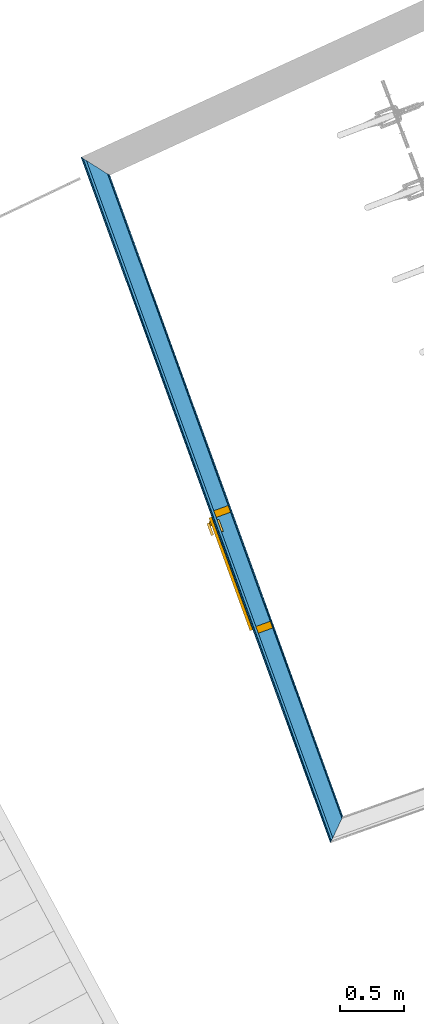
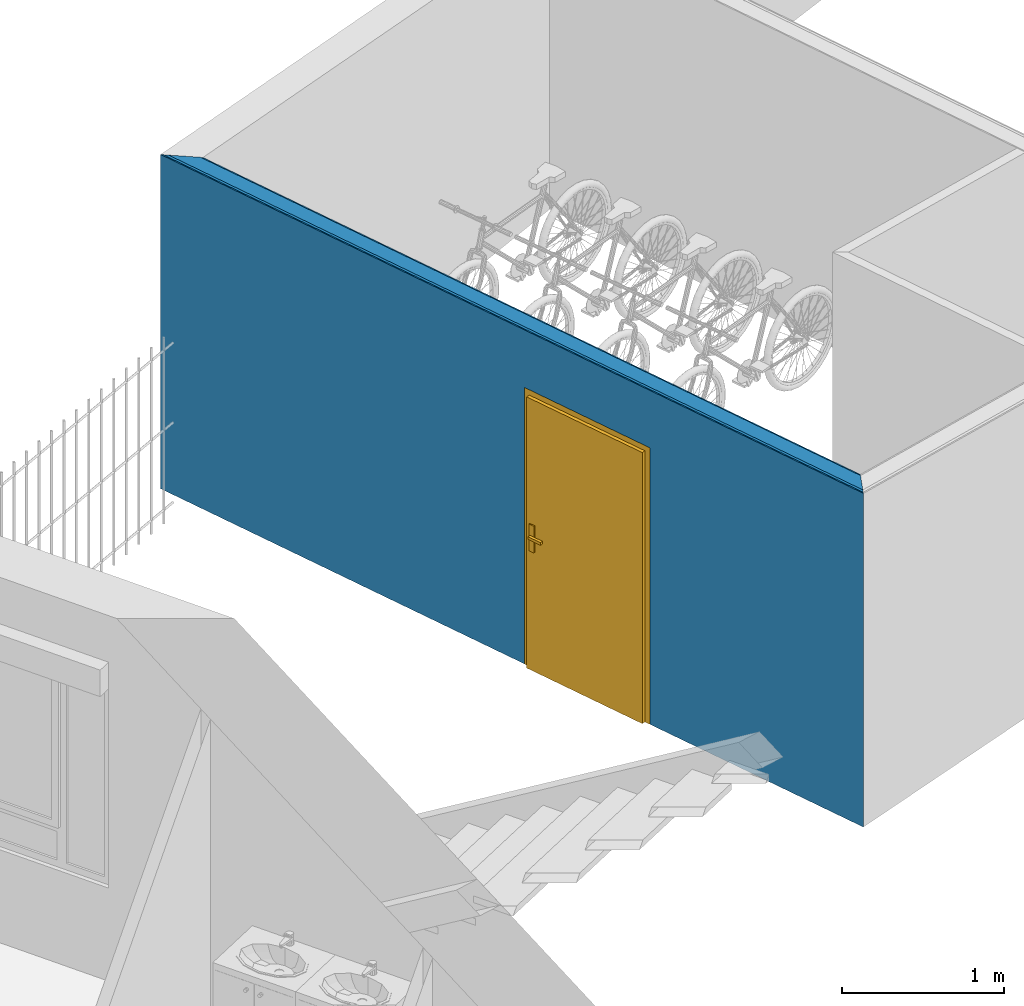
# One storey, part 118 of 195: 4 building element parts, 1 door, 1 opening, 1 element without a shape of its own.
"""IFC2X3 building model written with IfcOpenShell, lengths in metres."""

from ifc_helpers import new_model, entity, si_unit, converted_unit, derived_unit, money_unit, direction, frame, origin_with_axes, origin_2d_with_axis, place, context, subcontext, project, spatial, polyline, rectangle, outline, extrude, boolean, faceted_brep, source, transform, mapped, material, type_object, element, fill, aggregate, save


model = new_model("IFC2X3")

# Units and contexts
model_context = context("Model", 3, precision=1e-05, world=origin_with_axes(), true_north=direction((0.0, 1.0)))
body_context = subcontext(model_context, "Body", "Model", "MODEL_VIEW")
ifc_project = project(units=[si_unit("LENGTHUNIT", "METRE"), si_unit("AREAUNIT", "SQUARE_METRE"), si_unit("VOLUMEUNIT", "CUBIC_METRE"), converted_unit("PLANEANGLEUNIT", "DEGREE", entity("IfcPlaneAngleMeasure", 0.0174532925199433), si_unit("PLANEANGLEUNIT", "RADIAN"), dimensions=[0, 0, 0, 0, 0, 0, 0]), money_unit("CHF"), converted_unit("TIMEUNIT", "Year", entity("IfcTimeMeasure", 31557600.0), si_unit("TIMEUNIT", "SECOND"), dimensions=[0, 0, 1, 0, 0, 0, 0]), si_unit("MASSUNIT", "GRAM", prefix="KILO"), si_unit("THERMODYNAMICTEMPERATUREUNIT", "DEGREE_CELSIUS"), si_unit("LUMINOUSINTENSITYUNIT", "LUMEN"), si_unit("ENERGYUNIT", "JOULE", prefix="MEGA"), derived_unit("THERMALCONDUCTANCEUNIT", [(si_unit("POWERUNIT", "WATT"), 1), (si_unit("LENGTHUNIT", "METRE"), -1), (si_unit("THERMODYNAMICTEMPERATUREUNIT", "KELVIN"), -1)]), derived_unit("SPECIFICHEATCAPACITYUNIT", [(si_unit("ENERGYUNIT", "JOULE"), 1), (si_unit("MASSUNIT", "GRAM", prefix="KILO"), -1), (si_unit("THERMODYNAMICTEMPERATUREUNIT", "KELVIN"), -1)]), derived_unit("MASSDENSITYUNIT", [(si_unit("MASSUNIT", "GRAM", prefix="KILO"), 1), (si_unit("VOLUMEUNIT", "CUBIC_METRE"), -1)])], contexts=[model_context])

# Site, building, storey
site_placement = place(None, origin_with_axes())
site = spatial("IfcSite", under=ifc_project, at=site_placement, Name="Site", CompositionType="ELEMENT")
building_placement = place(site_placement, origin_with_axes())
building = spatial("IfcBuilding", under=site, at=building_placement, Name="Bâtiment", CompositionType="ELEMENT")
storey_placement = place(building_placement, origin_with_axes())
storey = spatial("IfcBuildingStorey", under=building, at=storey_placement, Name="rdc", CompositionType="ELEMENT", Elevation=0.0)

# Door
door_style = type_object("IfcDoorStyle", Name="Porte_1v", ConstructionType="NOTDEFINED", OperationType="NOTDEFINED", ParameterTakesPrecedence=False, Sizeable=False)
shared_shape = source(origin_with_axes(), body_context, "Body", "Brep", [
    faceted_brep([(-0.505, 0.0, 0.0), (-0.505, 0.0, 2.08), (0.505, 0.0, 2.08), (0.505, 0.0, 0.0), (0.465, 0.0, 0.0), (0.465, 0.0, 2.04), (-0.465, 0.0, 2.04), (-0.465, 0.0, 0.0), (-0.505, -0.16, 0.0), (-0.505, -0.16, 2.08), (0.505, -0.16, 2.08), (0.505, -0.16, 0.0), (0.45, -0.16, 0.0), (0.45, -0.015, 0.0), (0.465, -0.015, 0.0), (0.465, -0.015, 2.04), (-0.465, -0.015, 2.04), (-0.465, -0.015, 0.0), (-0.45, -0.015, 0.0), (-0.45, -0.16, 0.0), (-0.45, -0.16, 2.025), (0.45, -0.16, 2.025), (0.45, -0.015, 2.025), (-0.45, -0.015, 2.025)], [[[0, 1, 2, 3, 4, 5, 6, 7]], [[8, 9, 1, 0]], [[9, 10, 2, 1]], [[10, 11, 3, 2]], [[3, 11, 12, 13, 14, 4]], [[5, 4, 14, 15]], [[6, 5, 15, 16]], [[7, 6, 16, 17]], [[0, 7, 17, 18, 19, 8]], [[19, 20, 21, 12, 11, 10, 9, 8]], [[22, 13, 12, 21]], [[17, 16, 15, 14, 13, 22, 23, 18]], [[18, 23, 20, 19]], [[23, 22, 21, 20]]]),
    faceted_brep([(0.4, -0.015, 0.9), (0.4, -0.015, 1.1), (0.44, -0.015, 1.1), (0.44, -0.015, 0.9), (0.4, -0.025, 0.9), (0.4, -0.025, 1.1), (0.44, -0.025, 1.1), (0.44, -0.025, 0.9)], [[[0, 1, 2, 3]], [[0, 4, 5, 1]], [[1, 5, 6, 2]], [[2, 6, 7, 3]], [[3, 7, 4, 0]], [[7, 6, 5, 4]]]),
    faceted_brep([(0.33, -0.025, 1.0), (0.33, -0.025, 1.02), (0.43, -0.025, 1.02), (0.43, -0.025, 1.0), (0.33, -0.045, 1.0), (0.33, -0.045, 1.02), (0.43, -0.045, 1.02), (0.43, -0.045, 1.0)], [[[0, 1, 2, 3]], [[0, 4, 5, 1]], [[1, 5, 6, 2]], [[2, 6, 7, 3]], [[3, 7, 4, 0]], [[7, 6, 5, 4]]]),
    faceted_brep([(0.4, 0.035, 0.9), (0.4, 0.035, 1.1), (0.44, 0.035, 1.1), (0.44, 0.035, 0.9), (0.4, 0.025, 0.9), (0.4, 0.025, 1.1), (0.44, 0.025, 1.1), (0.44, 0.025, 0.9)], [[[0, 1, 2, 3]], [[0, 4, 5, 1]], [[1, 5, 6, 2]], [[2, 6, 7, 3]], [[3, 7, 4, 0]], [[7, 6, 5, 4]]]),
    faceted_brep([(0.33, 0.05500000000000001, 1.0), (0.33, 0.05500000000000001, 1.02), (0.43, 0.05500000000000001, 1.02), (0.43, 0.05500000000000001, 1.0), (0.33, 0.035, 1.0), (0.33, 0.035, 1.02), (0.43, 0.035, 1.02), (0.43, 0.035, 1.0)], [[[0, 1, 2, 3]], [[0, 4, 5, 1]], [[1, 5, 6, 2]], [[2, 6, 7, 3]], [[3, 7, 4, 0]], [[7, 6, 5, 4]]]),
    faceted_brep([(0.465, 0.025, 0.0), (0.465, -0.015, 0.0), (-0.465, -0.015, 0.0), (-0.465, 0.025, 0.0), (0.465, 0.025, 2.04), (0.465, -0.015, 2.04), (-0.465, -0.015, 2.04), (-0.465, 0.025, 2.04)], [[[0, 1, 2, 3]], [[4, 5, 1, 0]], [[1, 5, 6, 2]], [[3, 2, 6, 7]], [[0, 3, 7, 4]], [[7, 6, 5, 4]]]),
])
wall_placement = place(storey_placement, frame((9565.115450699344, -1022.062196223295, 57.7), z_axis=(0.0, 0.0, 1.0), x_axis=(0.3417568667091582, -0.9397884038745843, 0.0)))
opening_placement = place(wall_placement, frame((3.432817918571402, 0.0, 0.0), z_axis=(0.0, 0.0, 1.0), x_axis=(1.0, 0.0, 0.0)))
door_placement = place(opening_placement, frame((0.4649999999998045, 0.0, 0.0), z_axis=(0.0, 0.0, 1.0), x_axis=(-1.0, 0.0, 0.0)))
door = element("IfcDoor", 1, at=door_placement, inside=storey, type_object=door_style, Name="Por-300", OverallHeight=2.04, OverallWidth=0.93, context=body_context, shape_type="MappedRepresentation", body=[
    mapped(shared_shape, transform((0.4650000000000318, 0.0, 0.0))),
])

# Wall, opening
wall_type = type_object("IfcWallType", Name="1/Ossatur bois 160   non isol 160", PredefinedType="NOTDEFINED")
wall = element("IfcWall", 2, at=wall_placement, inside=storey, type_object=wall_type, Name="Mur-108")
opening = element("IfcOpeningElement", 3, at=opening_placement, cuts=wall, Name="Por-300", context=body_context, shape_type="SweptSolid", body=[
    extrude(rectangle(XDim=1.01000001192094, YDim=2.079999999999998, at=origin_2d_with_axis()), frame((5.960600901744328e-09, 0.1599999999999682, 1.039999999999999), z_axis=(0.0, 1.0, 0.0), x_axis=(1.0, 0.0, 0.0)), (0.0, 0.0, -1.0), 0.32),
])

fill(opening, door)

# Building element part
ifc_material_1 = material(Name="Sans Trame 296962763")
building_element_part_1_placement = place(wall_placement, origin_with_axes())
building_element_part_1 = element("IfcBuildingElementPart", 4, at=building_element_part_1_placement, material=ifc_material_1, Name="Sans Trame 296962763", context=body_context, shape_type="CSG", body=[
    boolean("DIFFERENCE", boolean("DIFFERENCE", boolean("DIFFERENCE", boolean("DIFFERENCE", extrude(outline(polyline([(-0.01308100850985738, 0.1499999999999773), (5.657522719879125, 0.1499999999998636), (5.657522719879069, 0.1599999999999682), (-0.01308100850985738, 0.1600000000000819), (-0.01308100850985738, 0.1499999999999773)])), origin_with_axes(), (0.0, 0.0, 1.0), 2.75), faceted_brep([(0.2076530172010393, 0.1599999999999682, 2.500056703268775), (0.2076530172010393, 0.1599999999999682, 0.0), (-0.01308100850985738, 0.1600000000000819, 0.0), (-0.01308100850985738, 0.1600000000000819, 2.75), (5.657522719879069, 0.1599999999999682, 2.75), (5.657522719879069, 0.1599999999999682, 0.0), (5.497518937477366, 0.1599999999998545, 0.0), (5.497518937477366, 0.1599999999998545, 2.49687450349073), (0.1946747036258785, 0.1499999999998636, 2.500939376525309), (0.1946747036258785, 0.1499999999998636, 0.0), (-0.01308100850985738, 0.1499999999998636, 0.0), (-0.01308100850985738, 0.1499999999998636, 2.75), (5.657522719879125, 0.1499999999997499, 2.75), (5.657522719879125, 0.1499999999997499, 0.0), (5.507450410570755, 0.150000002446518, 0.0), (5.507450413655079, 0.1499999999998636, 2.497743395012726)], [[[0, 1, 2, 3, 4, 5, 6, 7]], [[1, 0, 8, 9]], [[1, 9, 10, 2]], [[3, 2, 10, 11]], [[3, 11, 12, 4]], [[12, 13, 5, 4]], [[14, 6, 5, 13]], [[7, 6, 14, 15]], [[0, 7, 15, 8]], [[15, 14, 13, 12, 11, 10, 9, 8]]])), faceted_brep([(0.1946747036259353, 0.1499999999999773, 2.500939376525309), (0.1946747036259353, 0.1499999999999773, 0.0), (-0.01308100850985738, 0.1499999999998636, 0.0), (-0.01308100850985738, 0.1499999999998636, 2.75), (5.657522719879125, 0.1499999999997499, 2.75), (5.657522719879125, 0.1499999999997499, 0.0), (5.507450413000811, 0.1499999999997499, 0.0), (5.507450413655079, 0.1499999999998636, 2.497743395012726), (0.03893494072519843, 0.02999999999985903, 2.511531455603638), (0.03893494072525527, 0.02999999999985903, 0.0), (-0.01308100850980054, 0.02999999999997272, 0.0), (-0.01308100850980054, 0.02999999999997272, 2.75), (5.657522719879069, 0.02999999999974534, 2.75), (5.657522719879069, 0.02999999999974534, 0.0), (5.626628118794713, 0.03000000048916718, 0.0), (5.626628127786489, 0.02999999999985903, 2.508170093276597)], [[[0, 1, 2, 3, 4, 5, 6, 7]], [[1, 0, 8, 9]], [[1, 9, 10, 2]], [[3, 2, 10, 11]], [[3, 11, 12, 4]], [[12, 13, 5, 4]], [[14, 6, 5, 13]], [[7, 6, 14, 15]], [[0, 7, 15, 8]], [[15, 14, 13, 12, 11, 10, 9, 8]]])), faceted_brep([(0.03893494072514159, 0.02999999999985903, 2.511531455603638), (0.03893494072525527, 0.02999999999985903, 0.0), (-0.01308100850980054, 0.02999999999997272, 0.0), (-0.01308100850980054, 0.02999999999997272, 2.75), (5.657522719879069, 0.02999999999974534, 2.75), (5.657522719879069, 0.02999999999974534, 0.0), (5.626628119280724, 0.02999999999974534, 0.0), (5.626628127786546, 0.02999999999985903, 2.508170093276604), (0.01297831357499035, 0.009999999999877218, 2.513296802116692), (0.0129783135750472, 0.009999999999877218, 0.0), (-0.01308100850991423, 0.009999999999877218, 0.0), (-0.01308100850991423, 0.009999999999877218, 2.75), (5.657522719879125, 0.009999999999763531, 2.75), (5.657522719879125, 0.009999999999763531, 0.0), (5.646491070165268, 0.01000000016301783, 0.0), (5.6464910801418, 0.009999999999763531, 2.509907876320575)], [[[0, 1, 2, 3, 4, 5, 6, 7]], [[1, 0, 8, 9]], [[1, 9, 10, 2]], [[3, 2, 10, 11]], [[3, 11, 12, 4]], [[12, 13, 5, 4]], [[14, 6, 5, 13]], [[7, 6, 14, 15]], [[0, 7, 15, 8]], [[15, 14, 13, 12, 11, 10, 9, 8]]])), faceted_brep([(0.01297831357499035, 0.009999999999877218, 2.513296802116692), (0.0129783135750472, 0.009999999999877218, 0.0), (-0.01308100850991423, 0.009999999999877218, 0.0), (-0.01308100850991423, 0.009999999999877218, 2.75), (5.657522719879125, 0.009999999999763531, 2.75), (5.657522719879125, 0.009999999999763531, 0.0), (5.646491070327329, 0.009999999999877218, 0.0), (5.6464910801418, 0.009999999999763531, 2.509907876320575), (0.0, 0.0, 2.514179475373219), (0.0, 0.0, 0.0), (-0.01308100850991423, 0.0, 0.0), (-0.01308100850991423, 0.0, 2.75), (5.657522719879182, 0.0, 2.75), (5.657522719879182, 0.0, 0.0), (5.656422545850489, 0.0, 0.0), (5.656422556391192, 0.0, 2.510776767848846)], [[[0, 1, 2, 3, 4, 5, 6, 7]], [[1, 0, 8, 9]], [[1, 9, 10, 2]], [[3, 2, 10, 11]], [[3, 11, 12, 4]], [[12, 13, 5, 4]], [[14, 6, 5, 13]], [[7, 6, 14, 15]], [[0, 7, 15, 8]], [[15, 14, 13, 12, 11, 10, 9, 8]]])),
])

ifc_material_2 = material(Name="Lame d'air 275581439")
building_element_part_2_placement = place(wall_placement, origin_with_axes())
building_element_part_2 = element("IfcBuildingElementPart", 5, at=building_element_part_2_placement, material=ifc_material_2, Name="Lame d'air 275581439", context=body_context, shape_type="CSG", body=[
    boolean("DIFFERENCE", boolean("DIFFERENCE", boolean("DIFFERENCE", boolean("DIFFERENCE", extrude(outline(polyline([(-0.01308100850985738, 0.02999999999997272), (5.657522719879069, 0.02999999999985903), (5.657522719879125, 0.1499999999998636), (-0.01308100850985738, 0.1499999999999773), (-0.01308100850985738, 0.02999999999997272)])), origin_with_axes(), (0.0, 0.0, 1.0), 2.75), faceted_brep([(0.2076530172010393, 0.1599999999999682, 2.500056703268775), (0.2076530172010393, 0.1599999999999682, 0.0), (-0.01308100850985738, 0.1600000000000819, 0.0), (-0.01308100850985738, 0.1600000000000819, 2.75), (5.657522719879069, 0.1599999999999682, 2.75), (5.657522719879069, 0.1599999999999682, 0.0), (5.497518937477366, 0.1599999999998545, 0.0), (5.497518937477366, 0.1599999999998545, 2.49687450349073), (0.1946747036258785, 0.1499999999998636, 2.500939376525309), (0.1946747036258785, 0.1499999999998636, 0.0), (-0.01308100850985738, 0.1499999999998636, 0.0), (-0.01308100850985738, 0.1499999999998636, 2.75), (5.657522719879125, 0.1499999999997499, 2.75), (5.657522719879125, 0.1499999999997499, 0.0), (5.507450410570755, 0.150000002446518, 0.0), (5.507450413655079, 0.1499999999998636, 2.497743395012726)], [[[0, 1, 2, 3, 4, 5, 6, 7]], [[1, 0, 8, 9]], [[1, 9, 10, 2]], [[3, 2, 10, 11]], [[3, 11, 12, 4]], [[12, 13, 5, 4]], [[14, 6, 5, 13]], [[7, 6, 14, 15]], [[0, 7, 15, 8]], [[15, 14, 13, 12, 11, 10, 9, 8]]])), faceted_brep([(0.1946747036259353, 0.1499999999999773, 2.500939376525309), (0.1946747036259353, 0.1499999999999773, 0.0), (-0.01308100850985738, 0.1499999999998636, 0.0), (-0.01308100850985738, 0.1499999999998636, 2.75), (5.657522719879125, 0.1499999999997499, 2.75), (5.657522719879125, 0.1499999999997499, 0.0), (5.507450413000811, 0.1499999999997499, 0.0), (5.507450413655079, 0.1499999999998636, 2.497743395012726), (0.03893494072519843, 0.02999999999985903, 2.511531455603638), (0.03893494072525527, 0.02999999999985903, 0.0), (-0.01308100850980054, 0.02999999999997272, 0.0), (-0.01308100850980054, 0.02999999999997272, 2.75), (5.657522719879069, 0.02999999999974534, 2.75), (5.657522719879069, 0.02999999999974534, 0.0), (5.626628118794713, 0.03000000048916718, 0.0), (5.626628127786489, 0.02999999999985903, 2.508170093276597)], [[[0, 1, 2, 3, 4, 5, 6, 7]], [[1, 0, 8, 9]], [[1, 9, 10, 2]], [[3, 2, 10, 11]], [[3, 11, 12, 4]], [[12, 13, 5, 4]], [[14, 6, 5, 13]], [[7, 6, 14, 15]], [[0, 7, 15, 8]], [[15, 14, 13, 12, 11, 10, 9, 8]]])), faceted_brep([(0.03893494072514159, 0.02999999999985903, 2.511531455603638), (0.03893494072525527, 0.02999999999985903, 0.0), (-0.01308100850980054, 0.02999999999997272, 0.0), (-0.01308100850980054, 0.02999999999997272, 2.75), (5.657522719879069, 0.02999999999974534, 2.75), (5.657522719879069, 0.02999999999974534, 0.0), (5.626628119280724, 0.02999999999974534, 0.0), (5.626628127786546, 0.02999999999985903, 2.508170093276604), (0.01297831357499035, 0.009999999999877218, 2.513296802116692), (0.0129783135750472, 0.009999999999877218, 0.0), (-0.01308100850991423, 0.009999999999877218, 0.0), (-0.01308100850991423, 0.009999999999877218, 2.75), (5.657522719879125, 0.009999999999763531, 2.75), (5.657522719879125, 0.009999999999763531, 0.0), (5.646491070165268, 0.01000000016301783, 0.0), (5.6464910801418, 0.009999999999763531, 2.509907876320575)], [[[0, 1, 2, 3, 4, 5, 6, 7]], [[1, 0, 8, 9]], [[1, 9, 10, 2]], [[3, 2, 10, 11]], [[3, 11, 12, 4]], [[12, 13, 5, 4]], [[14, 6, 5, 13]], [[7, 6, 14, 15]], [[0, 7, 15, 8]], [[15, 14, 13, 12, 11, 10, 9, 8]]])), faceted_brep([(0.01297831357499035, 0.009999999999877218, 2.513296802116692), (0.0129783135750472, 0.009999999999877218, 0.0), (-0.01308100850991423, 0.009999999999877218, 0.0), (-0.01308100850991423, 0.009999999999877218, 2.75), (5.657522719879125, 0.009999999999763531, 2.75), (5.657522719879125, 0.009999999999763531, 0.0), (5.646491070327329, 0.009999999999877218, 0.0), (5.6464910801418, 0.009999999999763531, 2.509907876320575), (0.0, 0.0, 2.514179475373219), (0.0, 0.0, 0.0), (-0.01308100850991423, 0.0, 0.0), (-0.01308100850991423, 0.0, 2.75), (5.657522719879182, 0.0, 2.75), (5.657522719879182, 0.0, 0.0), (5.656422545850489, 0.0, 0.0), (5.656422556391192, 0.0, 2.510776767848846)], [[[0, 1, 2, 3, 4, 5, 6, 7]], [[1, 0, 8, 9]], [[1, 9, 10, 2]], [[3, 2, 10, 11]], [[3, 11, 12, 4]], [[12, 13, 5, 4]], [[14, 6, 5, 13]], [[7, 6, 14, 15]], [[0, 7, 15, 8]], [[15, 14, 13, 12, 11, 10, 9, 8]]])),
])

ifc_material_3 = material(Name="Lame d'air 323202302")
building_element_part_3_placement = place(wall_placement, origin_with_axes())
building_element_part_3 = element("IfcBuildingElementPart", 6, at=building_element_part_3_placement, material=ifc_material_3, Name="Lame d'air 323202302", context=body_context, shape_type="CSG", body=[
    boolean("DIFFERENCE", boolean("DIFFERENCE", boolean("DIFFERENCE", boolean("DIFFERENCE", extrude(outline(polyline([(-0.01308100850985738, 0.009999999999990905), (5.657522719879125, 0.009999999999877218), (5.657522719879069, 0.02999999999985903), (-0.01308100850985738, 0.02999999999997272), (-0.01308100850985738, 0.009999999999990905)])), origin_with_axes(), (0.0, 0.0, 1.0), 2.75), faceted_brep([(0.2076530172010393, 0.1599999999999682, 2.500056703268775), (0.2076530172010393, 0.1599999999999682, 0.0), (-0.01308100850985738, 0.1600000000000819, 0.0), (-0.01308100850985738, 0.1600000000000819, 2.75), (5.657522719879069, 0.1599999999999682, 2.75), (5.657522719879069, 0.1599999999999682, 0.0), (5.497518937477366, 0.1599999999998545, 0.0), (5.497518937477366, 0.1599999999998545, 2.49687450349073), (0.1946747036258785, 0.1499999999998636, 2.500939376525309), (0.1946747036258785, 0.1499999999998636, 0.0), (-0.01308100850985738, 0.1499999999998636, 0.0), (-0.01308100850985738, 0.1499999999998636, 2.75), (5.657522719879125, 0.1499999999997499, 2.75), (5.657522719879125, 0.1499999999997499, 0.0), (5.507450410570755, 0.150000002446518, 0.0), (5.507450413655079, 0.1499999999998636, 2.497743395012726)], [[[0, 1, 2, 3, 4, 5, 6, 7]], [[1, 0, 8, 9]], [[1, 9, 10, 2]], [[3, 2, 10, 11]], [[3, 11, 12, 4]], [[12, 13, 5, 4]], [[14, 6, 5, 13]], [[7, 6, 14, 15]], [[0, 7, 15, 8]], [[15, 14, 13, 12, 11, 10, 9, 8]]])), faceted_brep([(0.1946747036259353, 0.1499999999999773, 2.500939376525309), (0.1946747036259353, 0.1499999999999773, 0.0), (-0.01308100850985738, 0.1499999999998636, 0.0), (-0.01308100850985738, 0.1499999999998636, 2.75), (5.657522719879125, 0.1499999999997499, 2.75), (5.657522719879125, 0.1499999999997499, 0.0), (5.507450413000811, 0.1499999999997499, 0.0), (5.507450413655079, 0.1499999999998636, 2.497743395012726), (0.03893494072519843, 0.02999999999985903, 2.511531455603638), (0.03893494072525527, 0.02999999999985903, 0.0), (-0.01308100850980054, 0.02999999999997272, 0.0), (-0.01308100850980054, 0.02999999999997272, 2.75), (5.657522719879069, 0.02999999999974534, 2.75), (5.657522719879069, 0.02999999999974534, 0.0), (5.626628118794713, 0.03000000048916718, 0.0), (5.626628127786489, 0.02999999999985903, 2.508170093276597)], [[[0, 1, 2, 3, 4, 5, 6, 7]], [[1, 0, 8, 9]], [[1, 9, 10, 2]], [[3, 2, 10, 11]], [[3, 11, 12, 4]], [[12, 13, 5, 4]], [[14, 6, 5, 13]], [[7, 6, 14, 15]], [[0, 7, 15, 8]], [[15, 14, 13, 12, 11, 10, 9, 8]]])), faceted_brep([(0.03893494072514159, 0.02999999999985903, 2.511531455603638), (0.03893494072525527, 0.02999999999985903, 0.0), (-0.01308100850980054, 0.02999999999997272, 0.0), (-0.01308100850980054, 0.02999999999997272, 2.75), (5.657522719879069, 0.02999999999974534, 2.75), (5.657522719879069, 0.02999999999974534, 0.0), (5.626628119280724, 0.02999999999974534, 0.0), (5.626628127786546, 0.02999999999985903, 2.508170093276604), (0.01297831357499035, 0.009999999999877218, 2.513296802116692), (0.0129783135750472, 0.009999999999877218, 0.0), (-0.01308100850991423, 0.009999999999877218, 0.0), (-0.01308100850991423, 0.009999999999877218, 2.75), (5.657522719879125, 0.009999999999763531, 2.75), (5.657522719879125, 0.009999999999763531, 0.0), (5.646491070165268, 0.01000000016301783, 0.0), (5.6464910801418, 0.009999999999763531, 2.509907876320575)], [[[0, 1, 2, 3, 4, 5, 6, 7]], [[1, 0, 8, 9]], [[1, 9, 10, 2]], [[3, 2, 10, 11]], [[3, 11, 12, 4]], [[12, 13, 5, 4]], [[14, 6, 5, 13]], [[7, 6, 14, 15]], [[0, 7, 15, 8]], [[15, 14, 13, 12, 11, 10, 9, 8]]])), faceted_brep([(0.01297831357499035, 0.009999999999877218, 2.513296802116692), (0.0129783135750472, 0.009999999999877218, 0.0), (-0.01308100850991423, 0.009999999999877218, 0.0), (-0.01308100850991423, 0.009999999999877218, 2.75), (5.657522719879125, 0.009999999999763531, 2.75), (5.657522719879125, 0.009999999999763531, 0.0), (5.646491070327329, 0.009999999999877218, 0.0), (5.6464910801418, 0.009999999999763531, 2.509907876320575), (0.0, 0.0, 2.514179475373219), (0.0, 0.0, 0.0), (-0.01308100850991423, 0.0, 0.0), (-0.01308100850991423, 0.0, 2.75), (5.657522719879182, 0.0, 2.75), (5.657522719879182, 0.0, 0.0), (5.656422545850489, 0.0, 0.0), (5.656422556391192, 0.0, 2.510776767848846)], [[[0, 1, 2, 3, 4, 5, 6, 7]], [[1, 0, 8, 9]], [[1, 9, 10, 2]], [[3, 2, 10, 11]], [[3, 11, 12, 4]], [[12, 13, 5, 4]], [[14, 6, 5, 13]], [[7, 6, 14, 15]], [[0, 7, 15, 8]], [[15, 14, 13, 12, 11, 10, 9, 8]]])),
])

ifc_material_4 = material(Name="Hachure solide 323202122")
building_element_part_4_placement = place(wall_placement, origin_with_axes())
building_element_part_4 = element("IfcBuildingElementPart", 7, at=building_element_part_4_placement, material=ifc_material_4, Name="Hachure solide 323202122", context=body_context, shape_type="CSG", body=[
    boolean("DIFFERENCE", boolean("DIFFERENCE", boolean("DIFFERENCE", boolean("DIFFERENCE", extrude(outline(polyline([(-0.01308100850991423, 0.0), (5.657522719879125, 0.0), (5.657522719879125, 0.009999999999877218), (-0.01308100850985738, 0.009999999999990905), (-0.01308100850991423, 0.0)])), origin_with_axes(), (0.0, 0.0, 1.0), 2.75), faceted_brep([(0.2076530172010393, 0.1599999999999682, 2.500056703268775), (0.2076530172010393, 0.1599999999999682, 0.0), (-0.01308100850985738, 0.1600000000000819, 0.0), (-0.01308100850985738, 0.1600000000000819, 2.75), (5.657522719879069, 0.1599999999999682, 2.75), (5.657522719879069, 0.1599999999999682, 0.0), (5.497518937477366, 0.1599999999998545, 0.0), (5.497518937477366, 0.1599999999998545, 2.49687450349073), (0.1946747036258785, 0.1499999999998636, 2.500939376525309), (0.1946747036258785, 0.1499999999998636, 0.0), (-0.01308100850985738, 0.1499999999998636, 0.0), (-0.01308100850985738, 0.1499999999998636, 2.75), (5.657522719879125, 0.1499999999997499, 2.75), (5.657522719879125, 0.1499999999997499, 0.0), (5.507450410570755, 0.150000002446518, 0.0), (5.507450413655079, 0.1499999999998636, 2.497743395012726)], [[[0, 1, 2, 3, 4, 5, 6, 7]], [[1, 0, 8, 9]], [[1, 9, 10, 2]], [[3, 2, 10, 11]], [[3, 11, 12, 4]], [[12, 13, 5, 4]], [[14, 6, 5, 13]], [[7, 6, 14, 15]], [[0, 7, 15, 8]], [[15, 14, 13, 12, 11, 10, 9, 8]]])), faceted_brep([(0.1946747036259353, 0.1499999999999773, 2.500939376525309), (0.1946747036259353, 0.1499999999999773, 0.0), (-0.01308100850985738, 0.1499999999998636, 0.0), (-0.01308100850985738, 0.1499999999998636, 2.75), (5.657522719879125, 0.1499999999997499, 2.75), (5.657522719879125, 0.1499999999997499, 0.0), (5.507450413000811, 0.1499999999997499, 0.0), (5.507450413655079, 0.1499999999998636, 2.497743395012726), (0.03893494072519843, 0.02999999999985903, 2.511531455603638), (0.03893494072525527, 0.02999999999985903, 0.0), (-0.01308100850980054, 0.02999999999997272, 0.0), (-0.01308100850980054, 0.02999999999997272, 2.75), (5.657522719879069, 0.02999999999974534, 2.75), (5.657522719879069, 0.02999999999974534, 0.0), (5.626628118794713, 0.03000000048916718, 0.0), (5.626628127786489, 0.02999999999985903, 2.508170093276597)], [[[0, 1, 2, 3, 4, 5, 6, 7]], [[1, 0, 8, 9]], [[1, 9, 10, 2]], [[3, 2, 10, 11]], [[3, 11, 12, 4]], [[12, 13, 5, 4]], [[14, 6, 5, 13]], [[7, 6, 14, 15]], [[0, 7, 15, 8]], [[15, 14, 13, 12, 11, 10, 9, 8]]])), faceted_brep([(0.03893494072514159, 0.02999999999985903, 2.511531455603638), (0.03893494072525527, 0.02999999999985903, 0.0), (-0.01308100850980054, 0.02999999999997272, 0.0), (-0.01308100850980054, 0.02999999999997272, 2.75), (5.657522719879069, 0.02999999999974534, 2.75), (5.657522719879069, 0.02999999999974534, 0.0), (5.626628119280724, 0.02999999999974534, 0.0), (5.626628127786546, 0.02999999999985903, 2.508170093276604), (0.01297831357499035, 0.009999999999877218, 2.513296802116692), (0.0129783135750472, 0.009999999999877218, 0.0), (-0.01308100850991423, 0.009999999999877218, 0.0), (-0.01308100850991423, 0.009999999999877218, 2.75), (5.657522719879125, 0.009999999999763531, 2.75), (5.657522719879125, 0.009999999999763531, 0.0), (5.646491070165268, 0.01000000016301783, 0.0), (5.6464910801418, 0.009999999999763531, 2.509907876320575)], [[[0, 1, 2, 3, 4, 5, 6, 7]], [[1, 0, 8, 9]], [[1, 9, 10, 2]], [[3, 2, 10, 11]], [[3, 11, 12, 4]], [[12, 13, 5, 4]], [[14, 6, 5, 13]], [[7, 6, 14, 15]], [[0, 7, 15, 8]], [[15, 14, 13, 12, 11, 10, 9, 8]]])), faceted_brep([(0.01297831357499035, 0.009999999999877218, 2.513296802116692), (0.0129783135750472, 0.009999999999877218, 0.0), (-0.01308100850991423, 0.009999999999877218, 0.0), (-0.01308100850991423, 0.009999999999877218, 2.75), (5.657522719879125, 0.009999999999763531, 2.75), (5.657522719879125, 0.009999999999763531, 0.0), (5.646491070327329, 0.009999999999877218, 0.0), (5.6464910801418, 0.009999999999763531, 2.509907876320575), (0.0, 0.0, 2.514179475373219), (0.0, 0.0, 0.0), (-0.01308100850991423, 0.0, 0.0), (-0.01308100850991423, 0.0, 2.75), (5.657522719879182, 0.0, 2.75), (5.657522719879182, 0.0, 0.0), (5.656422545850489, 0.0, 0.0), (5.656422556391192, 0.0, 2.510776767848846)], [[[0, 1, 2, 3, 4, 5, 6, 7]], [[1, 0, 8, 9]], [[1, 9, 10, 2]], [[3, 2, 10, 11]], [[3, 11, 12, 4]], [[12, 13, 5, 4]], [[14, 6, 5, 13]], [[7, 6, 14, 15]], [[0, 7, 15, 8]], [[15, 14, 13, 12, 11, 10, 9, 8]]])),
])

aggregate(wall, [building_element_part_1, building_element_part_2, building_element_part_3, building_element_part_4])

save(model, "model.ifc")
